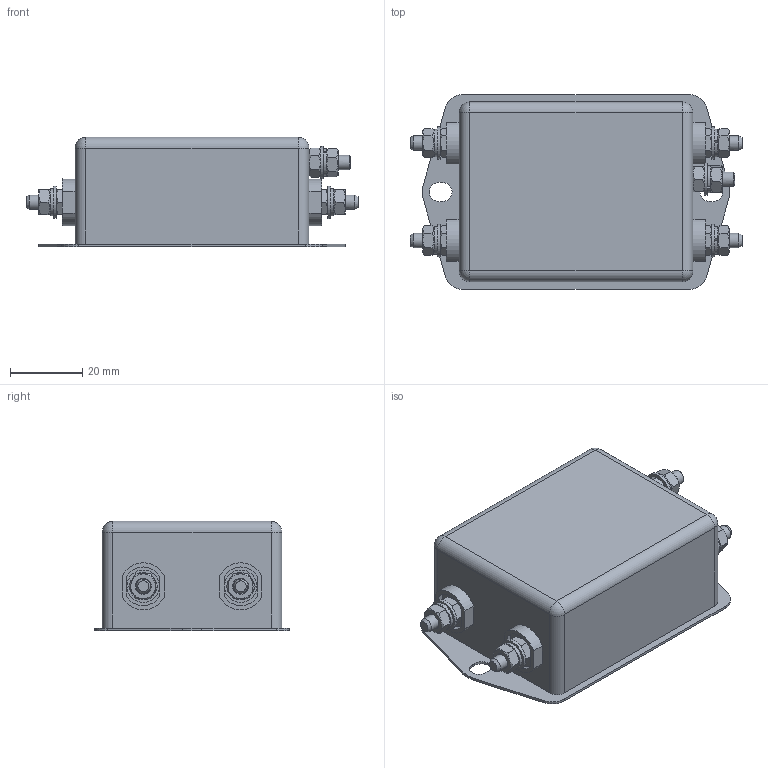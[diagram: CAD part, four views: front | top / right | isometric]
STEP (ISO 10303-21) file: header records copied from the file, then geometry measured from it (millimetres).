
FILE_DESCRIPTION((''),'2;1');
FILE_NAME('L:\INVENTOR_Projektedaten\HousingDesign\FN2020-20-08.stp','2013-02-11T11:14:02',('Samuel.Meier'),(''),'Autodesk Inventor 2010','Autodesk Inventor 2010','');
FILE_SCHEMA(('AUTOMOTIVE_DESIGN { 1 0 10303 214 1 1 1 1 }'));
Length unit declared in the file: millimetre
Products named in the file (1): FN2020-20-08
Bounding box: 92 x 54 x 30.3 mm (x, y, z)
Volume: 101006.1 mm3; surface area: 17938.8 mm2
Topology: 1 solids, 6 shells, 383 faces, 1031 edges, 667 vertices
Faces by surface type: plane 231, cylinder 99, cone 45, sphere 4, bspline 4
Full cylindrical faces by diameter (mm): 4 x7, 4.3 x5, 9 x5
Entity records: 11626 total; most frequent: CARTESIAN_POINT 2446, ORIENTED_EDGE 1784, DIRECTION 1778, EDGE_CURVE 892, AXIS2_PLACEMENT_3D 642, VERTEX_POINT 602, EDGE_LOOP 504, VECTOR 494
